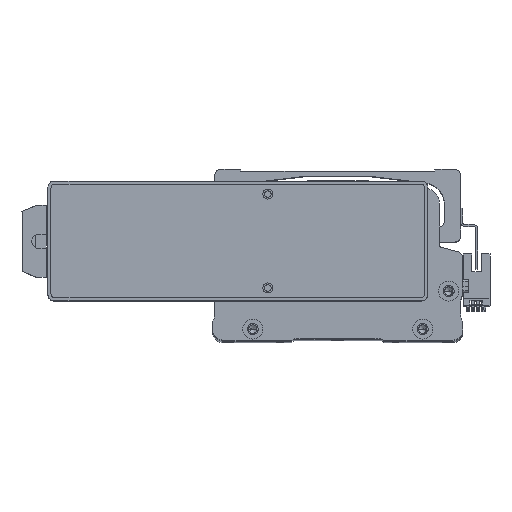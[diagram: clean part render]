
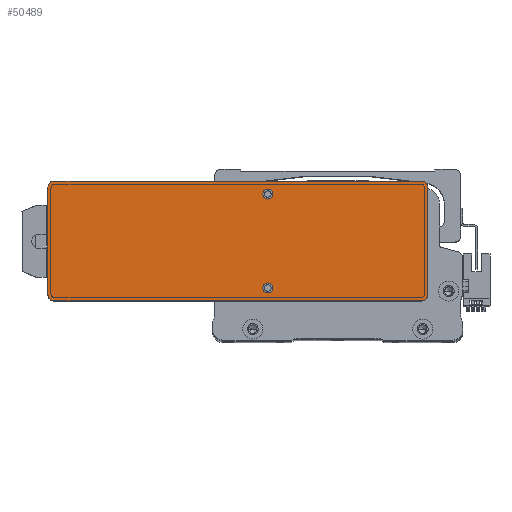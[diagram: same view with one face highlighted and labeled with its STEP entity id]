
A CAD part, top view. The second image highlights one B-rep face of the part: STEP entity #50489.
In plain terms, the highlighted planar face has unit normal (0, 0, 1) as drawn and (0, 0, -1) by its records, which use the part's own axes.
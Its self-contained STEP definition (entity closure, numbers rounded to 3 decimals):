
#1422 = DIRECTION ( 'NONE',  ( 0., 0., -1. ) ) ;
#1437 = EDGE_CURVE ( 'NONE', #43512, #34499, #50852, .T. ) ;
#1827 = DIRECTION ( 'NONE',  ( -1., 0., 0. ) ) ;
#4225 = VERTEX_POINT ( 'NONE', #49791 ) ;
#4505 = AXIS2_PLACEMENT_3D ( 'NONE', #27984, #64085, #28260 ) ;
#4932 = DIRECTION ( 'NONE',  ( 1., 0., 0. ) ) ;
#4957 = CARTESIAN_POINT ( 'NONE',  ( -92., -27., 0. ) ) ;
#5103 = DIRECTION ( 'NONE',  ( 0., 0., -1. ) ) ;
#5511 = EDGE_LOOP ( 'NONE', ( #50275, #32426 ) ) ;
#5526 = ORIENTED_EDGE ( 'NONE', *, *, #26753, .T. ) ;
#7478 = AXIS2_PLACEMENT_3D ( 'NONE', #9578, #51511, #15594 ) ;
#7884 = CARTESIAN_POINT ( 'NONE',  ( -95., -30., 0. ) ) ;
#8073 = DIRECTION ( 'NONE',  ( 0., 1., 0. ) ) ;
#8465 = CIRCLE ( 'NONE', #14523, 3. ) ;
#8825 = LINE ( 'NONE', #25934, #22972 ) ;
#9068 = VERTEX_POINT ( 'NONE', #59644 ) ;
#9152 = ORIENTED_EDGE ( 'NONE', *, *, #15106, .F. ) ;
#9578 = CARTESIAN_POINT ( 'NONE',  ( -15., -23.5, 0. ) ) ;
#9788 = ORIENTED_EDGE ( 'NONE', *, *, #36844, .F. ) ;
#10717 = CARTESIAN_POINT ( 'NONE',  ( 95., -30., 0. ) ) ;
#10814 = CARTESIAN_POINT ( 'NONE',  ( -15., -23.5, 0. ) ) ;
#11006 = DIRECTION ( 'NONE',  ( 1., 0., 0. ) ) ;
#14249 = EDGE_CURVE ( 'NONE', #16668, #73209, #28659, .T. ) ;
#14523 = AXIS2_PLACEMENT_3D ( 'NONE', #41063, #5103, #47098 ) ;
#15106 = EDGE_CURVE ( 'NONE', #4225, #44307, #70739, .T. ) ;
#15594 = DIRECTION ( 'NONE',  ( -1., 0., 0. ) ) ;
#15915 = VERTEX_POINT ( 'NONE', #23053 ) ;
#16668 = VERTEX_POINT ( 'NONE', #49311 ) ;
#16861 = CIRCLE ( 'NONE', #72455, 3. ) ;
#16875 = DIRECTION ( 'NONE',  ( -1., 0., 0. ) ) ;
#17684 = CARTESIAN_POINT ( 'NONE',  ( -92., 30., 0. ) ) ;
#18132 = FACE_BOUND ( 'NONE', #5511, .T. ) ;
#18201 = CIRCLE ( 'NONE', #36897, 2.5 ) ;
#18400 = ORIENTED_EDGE ( 'NONE', *, *, #22860, .F. ) ;
#18584 = CARTESIAN_POINT ( 'NONE',  ( 92., 27., 0. ) ) ;
#18683 = AXIS2_PLACEMENT_3D ( 'NONE', #4957, #46946, #11006 ) ;
#21162 = CIRCLE ( 'NONE', #27182, 2.5 ) ;
#22860 = EDGE_CURVE ( 'NONE', #43512, #32761, #8825, .T. ) ;
#22972 = VECTOR ( 'NONE', #8073, 1000. ) ;
#23053 = CARTESIAN_POINT ( 'NONE',  ( -92., -30., 0. ) ) ;
#24624 = DIRECTION ( 'NONE',  ( 1., 0., 0. ) ) ;
#25685 = CARTESIAN_POINT ( 'NONE',  ( 95., 30., 0. ) ) ;
#25934 = CARTESIAN_POINT ( 'NONE',  ( 95., -30., 0. ) ) ;
#26149 = CARTESIAN_POINT ( 'NONE',  ( 95., -27., 0. ) ) ;
#26268 = DIRECTION ( 'NONE',  ( 0., -1., 0. ) ) ;
#26753 = EDGE_CURVE ( 'NONE', #50564, #44307, #8465, .T. ) ;
#26896 = VERTEX_POINT ( 'NONE', #65874 ) ;
#27182 = AXIS2_PLACEMENT_3D ( 'NONE', #34350, #76215, #40377 ) ;
#27186 = DIRECTION ( 'NONE',  ( 0., 0., -1. ) ) ;
#27612 = ORIENTED_EDGE ( 'NONE', *, *, #41217, .F. ) ;
#27984 = CARTESIAN_POINT ( 'NONE',  ( 0., 0., 0. ) ) ;
#28260 = DIRECTION ( 'NONE',  ( 1., 0., 0. ) ) ;
#28659 = CIRCLE ( 'NONE', #7478, 2.5 ) ;
#29454 = VECTOR ( 'NONE', #26268, 1000. ) ;
#29652 = CIRCLE ( 'NONE', #59782, 2.5 ) ;
#31482 = ORIENTED_EDGE ( 'NONE', *, *, #1437, .T. ) ;
#32368 = CARTESIAN_POINT ( 'NONE',  ( -17.5, -23.5, 0. ) ) ;
#32426 = ORIENTED_EDGE ( 'NONE', *, *, #14249, .F. ) ;
#32761 = VERTEX_POINT ( 'NONE', #72962 ) ;
#34094 = FACE_OUTER_BOUND ( 'NONE', #50388, .T. ) ;
#34239 = EDGE_CURVE ( 'NONE', #73209, #16668, #29652, .T. ) ;
#34350 = CARTESIAN_POINT ( 'NONE',  ( -15., 23.5, 0. ) ) ;
#34499 = VERTEX_POINT ( 'NONE', #50840 ) ;
#35969 = ORIENTED_EDGE ( 'NONE', *, *, #72154, .T. ) ;
#36844 = EDGE_CURVE ( 'NONE', #15915, #34499, #50486, .T. ) ;
#36897 = AXIS2_PLACEMENT_3D ( 'NONE', #37358, #1422, #43374 ) ;
#37204 = VERTEX_POINT ( 'NONE', #56514 ) ;
#37358 = CARTESIAN_POINT ( 'NONE',  ( -15., 23.5, 0. ) ) ;
#40377 = DIRECTION ( 'NONE',  ( -1., 0., 0. ) ) ;
#40576 = CARTESIAN_POINT ( 'NONE',  ( -95., 27., 0. ) ) ;
#41063 = CARTESIAN_POINT ( 'NONE',  ( -92., 27., 0. ) ) ;
#41217 = EDGE_CURVE ( 'NONE', #9068, #37204, #21162, .T. ) ;
#43374 = DIRECTION ( 'NONE',  ( -1., 0., 0. ) ) ;
#43512 = VERTEX_POINT ( 'NONE', #26149 ) ;
#43918 = EDGE_LOOP ( 'NONE', ( #27612, #68090 ) ) ;
#44307 = VERTEX_POINT ( 'NONE', #17684 ) ;
#46946 = DIRECTION ( 'NONE',  ( 0., 0., -1. ) ) ;
#47098 = DIRECTION ( 'NONE',  ( 1., 0., 0. ) ) ;
#49311 = CARTESIAN_POINT ( 'NONE',  ( -12.5, -23.5, 0. ) ) ;
#49791 = CARTESIAN_POINT ( 'NONE',  ( 92., 30., 0. ) ) ;
#50275 = ORIENTED_EDGE ( 'NONE', *, *, #34239, .F. ) ;
#50388 = EDGE_LOOP ( 'NONE', ( #18400, #31482, #9788, #35969, #54581, #5526, #9152, #69041 ) ) ;
#50486 = LINE ( 'NONE', #10717, #64529 ) ;
#50489 = ADVANCED_FACE ( 'NONE', ( #65884, #34094, #18132 ), #52069, .F. ) ;
#50564 = VERTEX_POINT ( 'NONE', #40576 ) ;
#50840 = CARTESIAN_POINT ( 'NONE',  ( 92., -30., 0. ) ) ;
#50852 = CIRCLE ( 'NONE', #74887, 3. ) ;
#51511 = DIRECTION ( 'NONE',  ( 0., 0., -1. ) ) ;
#52069 = PLANE ( 'NONE',  #4505 ) ;
#52760 = DIRECTION ( 'NONE',  ( 0., 0., -1. ) ) ;
#54581 = ORIENTED_EDGE ( 'NONE', *, *, #65200, .F. ) ;
#54818 = VECTOR ( 'NONE', #1827, 1000. ) ;
#56514 = CARTESIAN_POINT ( 'NONE',  ( -12.5, 23.5, 0. ) ) ;
#59644 = CARTESIAN_POINT ( 'NONE',  ( -17.5, 23.5, 0. ) ) ;
#59782 = AXIS2_PLACEMENT_3D ( 'NONE', #10814, #52760, #16875 ) ;
#60466 = DIRECTION ( 'NONE',  ( 0., 0., -1. ) ) ;
#61268 = LINE ( 'NONE', #7884, #29454 ) ;
#63047 = CARTESIAN_POINT ( 'NONE',  ( 92., -27., 0. ) ) ;
#64085 = DIRECTION ( 'NONE',  ( 0., 0., 1. ) ) ;
#64529 = VECTOR ( 'NONE', #4932, 1000. ) ;
#65200 = EDGE_CURVE ( 'NONE', #50564, #26896, #61268, .T. ) ;
#65874 = CARTESIAN_POINT ( 'NONE',  ( -95., -27., 0. ) ) ;
#65884 = FACE_BOUND ( 'NONE', #43918, .T. ) ;
#68090 = ORIENTED_EDGE ( 'NONE', *, *, #68288, .F. ) ;
#68288 = EDGE_CURVE ( 'NONE', #37204, #9068, #18201, .T. ) ;
#69041 = ORIENTED_EDGE ( 'NONE', *, *, #74114, .T. ) ;
#69066 = DIRECTION ( 'NONE',  ( 1., 0., 0. ) ) ;
#69652 = CIRCLE ( 'NONE', #18683, 3. ) ;
#70739 = LINE ( 'NONE', #25685, #54818 ) ;
#72154 = EDGE_CURVE ( 'NONE', #15915, #26896, #69652, .T. ) ;
#72455 = AXIS2_PLACEMENT_3D ( 'NONE', #18584, #60466, #24624 ) ;
#72962 = CARTESIAN_POINT ( 'NONE',  ( 95., 27., 0. ) ) ;
#73209 = VERTEX_POINT ( 'NONE', #32368 ) ;
#74114 = EDGE_CURVE ( 'NONE', #4225, #32761, #16861, .T. ) ;
#74887 = AXIS2_PLACEMENT_3D ( 'NONE', #63047, #27186, #69066 ) ;
#76215 = DIRECTION ( 'NONE',  ( 0., 0., -1. ) ) ;
